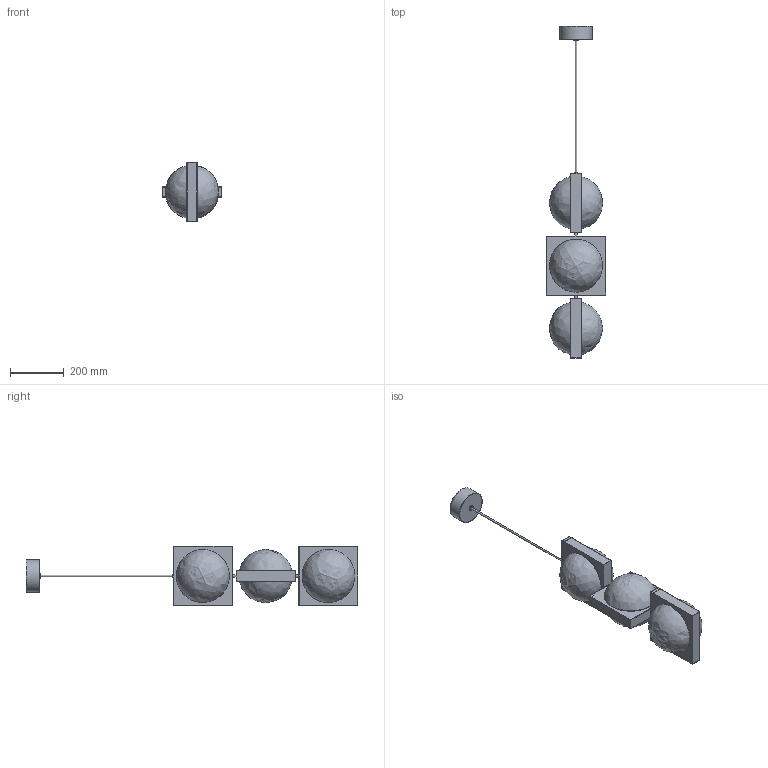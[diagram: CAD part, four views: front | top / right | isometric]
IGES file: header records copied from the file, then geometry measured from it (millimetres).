
Global section: file name: SOLSTICE TRIO PENDANT; native system: Autodesk Inventor 2023; preprocessor: unknown; author: Peter Larkam; date: 20240715.153346; units: millimetre
Bounding box: 220 x 1237 x 220 mm (x, y, z)
Volume: 1094991.7 mm3; surface area: 1245244.2 mm2
Topology: 19 solids, 19 shells, 358 faces, 896 edges, 598 vertices
Faces by surface type: bspline 358
